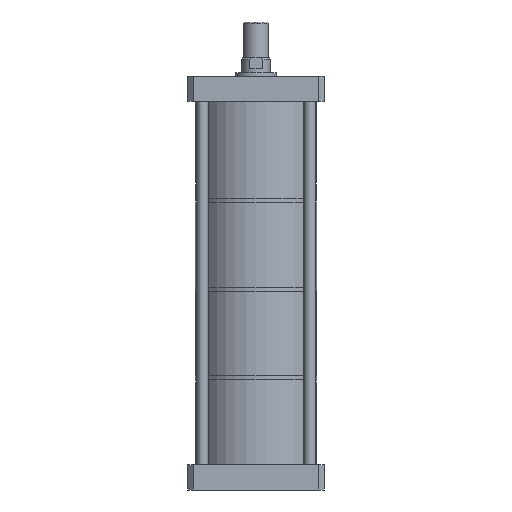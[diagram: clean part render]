
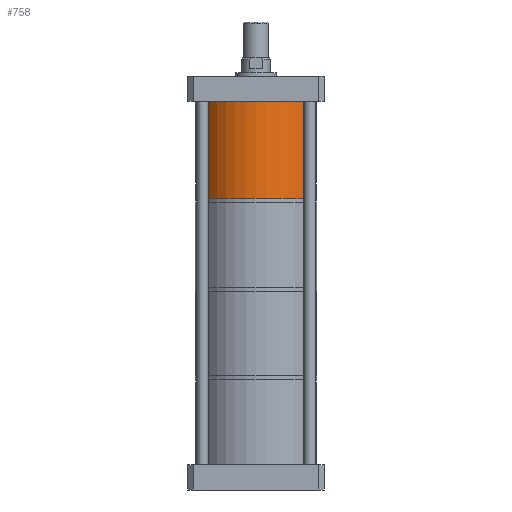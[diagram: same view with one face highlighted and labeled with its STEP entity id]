
A CAD part, front view. The second image highlights one B-rep face of the part: STEP entity #758.
In plain terms, the highlighted cylindrical face has radius 53 mm (diameter 106 mm), a partial arc.
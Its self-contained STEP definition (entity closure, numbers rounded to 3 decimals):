
#39 = EDGE_CURVE ( 'NONE', #3039, #4374, #3435, .T. ) ;
#61 = DIRECTION ( 'NONE',  ( 0., 0., 1. ) ) ;
#223 = CARTESIAN_POINT ( 'NONE',  ( 77.746, 0., -85. ) ) ;
#303 = CARTESIAN_POINT ( 'NONE',  ( 77.746, 0., 0. ) ) ;
#729 = AXIS2_PLACEMENT_3D ( 'NONE', #1065, #1061, #1050 ) ;
#758 = ADVANCED_FACE ( 'NONE', ( #1828 ), #1692, .T. ) ;
#1050 = DIRECTION ( 'NONE',  ( -1., 0., 0. ) ) ;
#1061 = DIRECTION ( 'NONE',  ( 0., 0., -1. ) ) ;
#1065 = CARTESIAN_POINT ( 'NONE',  ( 24.746, 0., 0. ) ) ;
#1152 = ORIENTED_EDGE ( 'NONE', *, *, #39, .T. ) ;
#1354 = ORIENTED_EDGE ( 'NONE', *, *, #4694, .F. ) ;
#1692 = CYLINDRICAL_SURFACE ( 'NONE', #3473, 53. ) ;
#1697 = VERTEX_POINT ( 'NONE', #3018 ) ;
#1828 = FACE_OUTER_BOUND ( 'NONE', #4170, .T. ) ;
#1884 = CARTESIAN_POINT ( 'NONE',  ( -28.254, 0., 0. ) ) ;
#2098 = CIRCLE ( 'NONE', #3068, 53. ) ;
#2099 = DIRECTION ( 'NONE',  ( -1., 0., 0. ) ) ;
#2144 = CARTESIAN_POINT ( 'NONE',  ( 24.746, 0., -85. ) ) ;
#2192 = EDGE_CURVE ( 'NONE', #1697, #2216, #4432, .T. ) ;
#2216 = VERTEX_POINT ( 'NONE', #1884 ) ;
#2483 = CARTESIAN_POINT ( 'NONE',  ( 77.746, 0., -85. ) ) ;
#2570 = VECTOR ( 'NONE', #61, 1000. ) ;
#2783 = DIRECTION ( 'NONE',  ( 1., 0., 0. ) ) ;
#2991 = VECTOR ( 'NONE', #4306, 1000. ) ;
#3018 = CARTESIAN_POINT ( 'NONE',  ( -28.254, 0., -85. ) ) ;
#3039 = VERTEX_POINT ( 'NONE', #223 ) ;
#3068 = AXIS2_PLACEMENT_3D ( 'NONE', #2144, #3977, #2099 ) ;
#3435 = LINE ( 'NONE', #2483, #2570 ) ;
#3473 = AXIS2_PLACEMENT_3D ( 'NONE', #4223, #4243, #2783 ) ;
#3819 = ORIENTED_EDGE ( 'NONE', *, *, #4226, .T. ) ;
#3977 = DIRECTION ( 'NONE',  ( 0., 0., -1. ) ) ;
#4170 = EDGE_LOOP ( 'NONE', ( #4862, #1354, #1152, #3819 ) ) ;
#4223 = CARTESIAN_POINT ( 'NONE',  ( 24.746, 0., -85. ) ) ;
#4226 = EDGE_CURVE ( 'NONE', #4374, #2216, #4229, .T. ) ;
#4229 = CIRCLE ( 'NONE', #729, 53. ) ;
#4243 = DIRECTION ( 'NONE',  ( 0., 0., 1. ) ) ;
#4306 = DIRECTION ( 'NONE',  ( 0., 0., 1. ) ) ;
#4374 = VERTEX_POINT ( 'NONE', #303 ) ;
#4432 = LINE ( 'NONE', #4727, #2991 ) ;
#4694 = EDGE_CURVE ( 'NONE', #3039, #1697, #2098, .T. ) ;
#4727 = CARTESIAN_POINT ( 'NONE',  ( -28.254, 0., -85. ) ) ;
#4862 = ORIENTED_EDGE ( 'NONE', *, *, #2192, .F. ) ;
